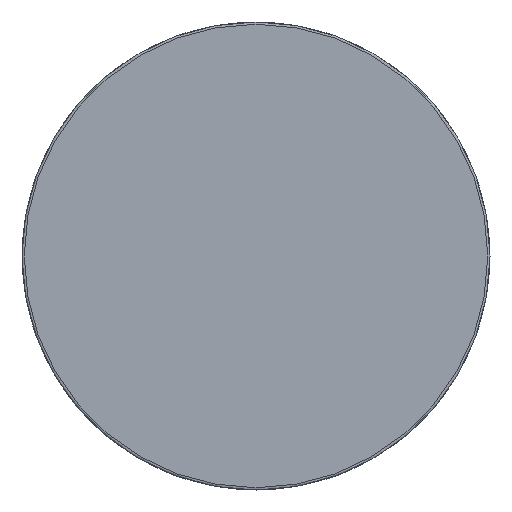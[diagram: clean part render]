
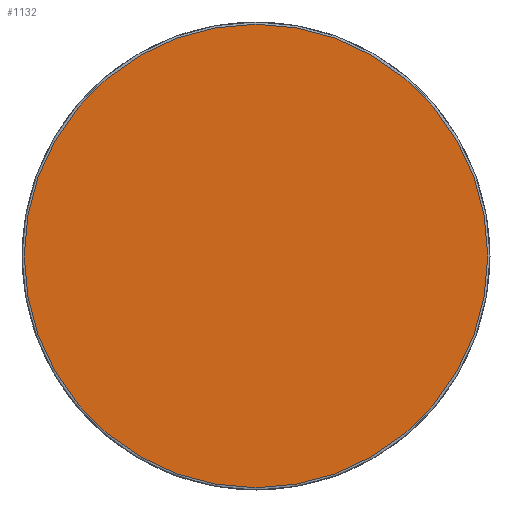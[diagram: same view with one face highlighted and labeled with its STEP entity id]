
A CAD part, front view. The second image highlights one B-rep face of the part: STEP entity #1132.
In plain terms, the highlighted planar face has unit normal (0, -1, 0).
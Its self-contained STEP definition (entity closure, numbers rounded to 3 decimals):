
#1107=CARTESIAN_POINT('',(-101.882,81.62,61.8));
#1108=DIRECTION('',(0.0,-1.0,0.0));
#1109=DIRECTION('',(0.0,0.0,-1.0));
#1110=AXIS2_PLACEMENT_3D('',#1107,#1108,#1109);
#1111=PLANE('',#1110);
#1112=CARTESIAN_POINT('',(-40.082,81.62,-51.0));
#1113=VERTEX_POINT('',#1112);
#1114=CARTESIAN_POINT('',(-40.082,81.62,51.0));
#1115=VERTEX_POINT('',#1114);
#1116=CARTESIAN_POINT('',(-40.082,81.62,0.0));
#1117=DIRECTION('',(0.0,-1.0,0.0));
#1118=DIRECTION('',(0.0,0.0,-1.0));
#1119=AXIS2_PLACEMENT_3D('',#1116,#1117,#1118);
#1120=CIRCLE('',#1119,51.0);
#1121=EDGE_CURVE('',#1113,#1115,#1120,.T.);
#1122=ORIENTED_EDGE('',*,*,#1121,.T.);
#1123=CARTESIAN_POINT('',(-40.082,81.62,0.0));
#1124=DIRECTION('',(0.0,-1.0,0.0));
#1125=DIRECTION('',(0.0,0.0,-1.0));
#1126=AXIS2_PLACEMENT_3D('',#1123,#1124,#1125);
#1127=CIRCLE('',#1126,51.0);
#1128=EDGE_CURVE('',#1115,#1113,#1127,.T.);
#1129=ORIENTED_EDGE('',*,*,#1128,.T.);
#1130=EDGE_LOOP('',(#1122,#1129));
#1131=FACE_OUTER_BOUND('',#1130,.T.);
#1132=ADVANCED_FACE('',(#1131),#1111,.T.);
